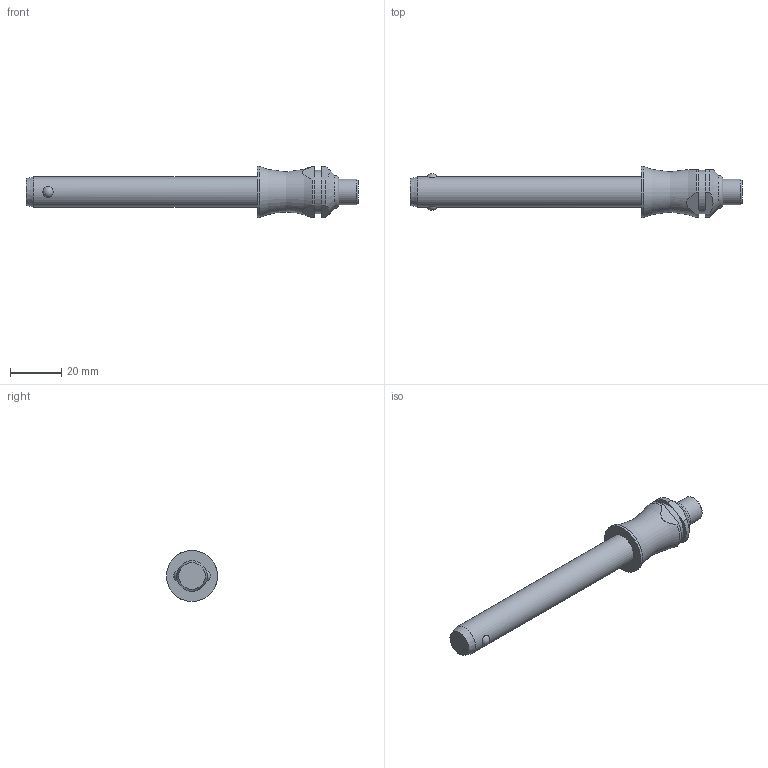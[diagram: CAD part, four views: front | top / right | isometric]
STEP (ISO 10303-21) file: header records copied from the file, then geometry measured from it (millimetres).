
FILE_DESCRIPTION( ( 'STEP AP203' ), '1' );
FILE_NAME( 'C:/Temp/Ganter_Step_05_03_2020/data/3_1/gn113_3/Stainless Steel-Ball lock pin GN 113.3-12-80 (deactivated).stp', '2020-03-12T08:18:46', ( 'License CC BY-ND 4.0' ), ( 'CADENAS' ), ' ', 'PARTsolutions', ' ' );
FILE_SCHEMA( ( 'CONFIG_CONTROL_DESIGN' ) );
Length unit declared in the file: millimetre
Products named in the file (1): _Stainless Steel-Ball lock pin GN 113.3-12-80 (deactivated)
Bounding box: 130.1 x 20 x 20 mm (x, y, z)
Volume: 18185.4 mm3; surface area: 5977.8 mm2
Topology: 1 solids, 1 shells, 28 faces, 60 edges, 39 vertices
Faces by surface type: plane 11, cylinder 10, cone 3, torus 2, sphere 2
Full cylindrical faces by diameter (mm): 10 x1, 12 x1, 17 x1, 20 x1
Entity records: 954 total; most frequent: CARTESIAN_POINT 338, DIRECTION 122, ORIENTED_EDGE 98, AXIS2_PLACEMENT_3D 52, EDGE_CURVE 49, EDGE_LOOP 42, VERTEX_POINT 38, FACE_OUTER_BOUND 34
